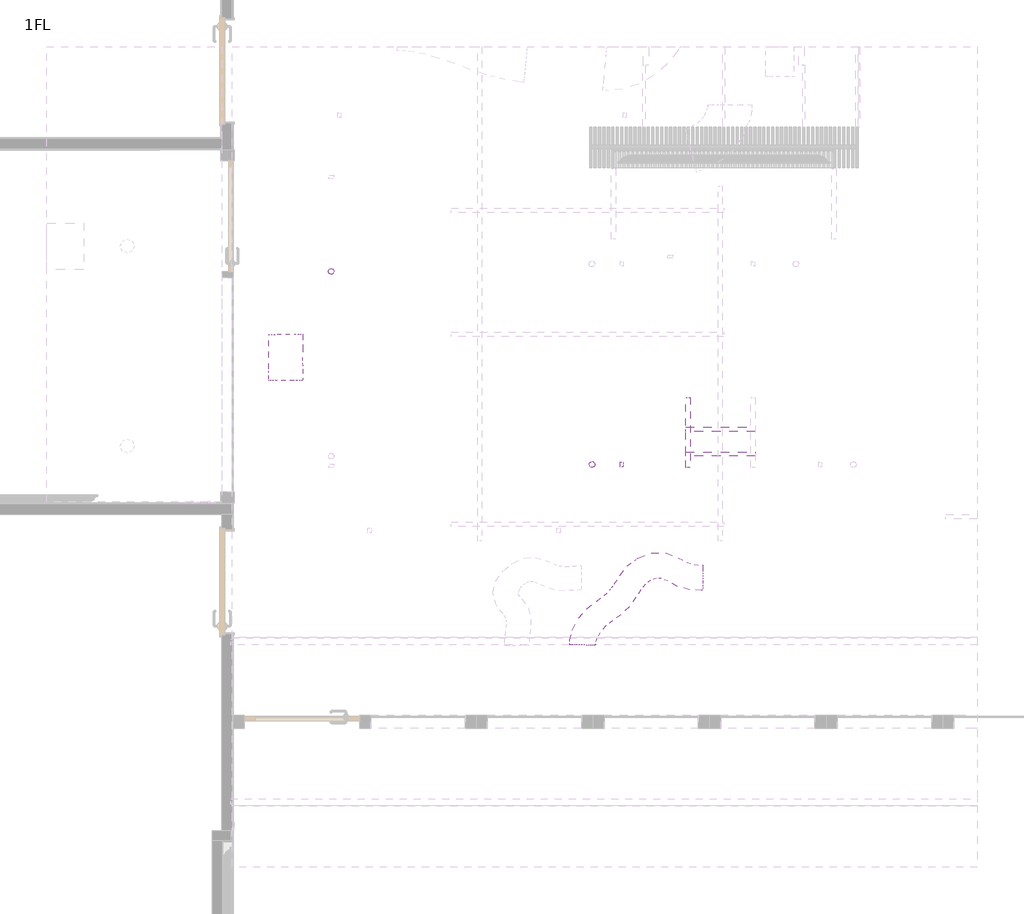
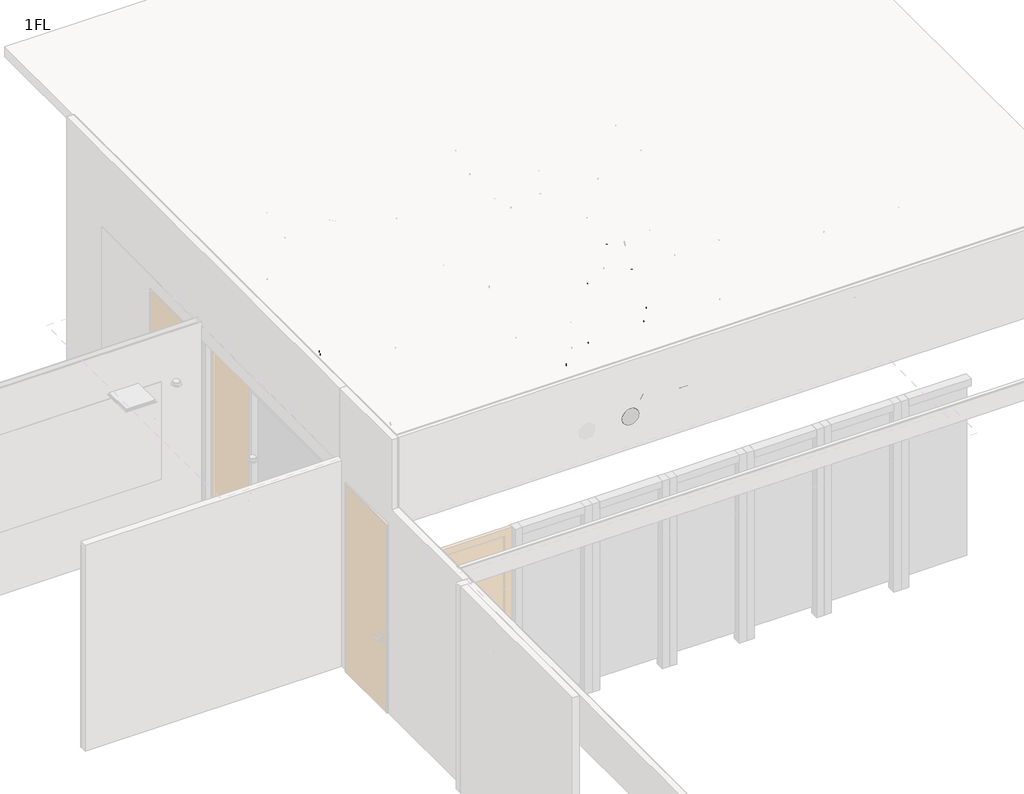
# One storey, part 7 of 13: 4 proxies, 2 duct segments, 2 fire suppression terminals.
"""IFC4 building model written with IfcOpenShell, lengths in millimetres."""

from ifc_helpers import new_model, si_unit, frame, origin, place, context, project, spatial, circle_curve, ellipse_curve, transform, mapped, element, save
from ifc_brep_helpers import plane_surface, cylinder_surface, advanced_brep
from components import mechanical_equipment_1677a866, mechanical_equipment_90a53e65, mechanical_equipment_0a1a1f3f, duct_hanger_2791b4bb, sprinkler_01_sprinkler_01_96afb536

model = new_model("IFC4")

# Units and contexts
model_context = context("Model", 3, world=origin())
ifc_project = project(units=[si_unit("LENGTHUNIT", "METRE", prefix="MILLI")], contexts=[model_context])

# Site, building, storey
site = spatial("IfcSite", under=ifc_project)
building = spatial("IfcBuilding", under=site)
storey = spatial("IfcBuildingStorey", under=building, Name="1FL", Elevation=500.0)

# Proxies
placement = place(None, origin())
mechanical_equipment_shape = mechanical_equipment_1677a866(model_context)
element("IfcBuildingElementProxy", 1, Name="Beared-Hanger : BearedHanger", ObjectType="Beared-Hanger : BearedHanger", at=placement, inside=storey, context=model_context, shape_type="MappedRepresentation", body=[
    mapped(mechanical_equipment_shape, transform((15988.1782237, -2246.4461398, 4470.0), x_axis=(0.9999999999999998, 0.0, 0.0), y_axis=(0.0, 0.9999999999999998, 0.0), z_axis=(0.0, 0.0, 1.0))),
])
mechanical_equipment_2_shape = mechanical_equipment_90a53e65(model_context)
element("IfcBuildingElementProxy", 2, Name="Beared-Hanger : BearedHanger", ObjectType="Beared-Hanger : BearedHanger", at=placement, inside=storey, context=model_context, shape_type="MappedRepresentation", body=[
    mapped(mechanical_equipment_2_shape, transform((15988.1782237, -2468.0496604, 4470.0), x_axis=(0.9999999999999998, 0.0, 0.0), y_axis=(0.0, 0.9999999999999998, 0.0), z_axis=(0.0, 0.0, 1.0))),
])
mechanical_equipment_3_shape = mechanical_equipment_0a1a1f3f(model_context)
element("IfcBuildingElementProxy", 3, Name="Beared-Hanger : BearedHanger", ObjectType="Beared-Hanger : BearedHanger", at=placement, inside=storey, context=model_context, shape_type="MappedRepresentation", body=[
    mapped(mechanical_equipment_3_shape, transform((15694.4982745, -2274.3361933, 4470.0), x_axis=(-0.00024414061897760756, 0.9999999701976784, 0.0), y_axis=(-0.9999999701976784, -0.00024414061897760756, 0.0), z_axis=(0.0, 0.0, 1.0))),
])
duct_hanger_shape = duct_hanger_2791b4bb(model_context)
element("IfcBuildingElementProxy", 4, Name="Duct-hanger : Φ44", ObjectType="Duct-hanger : Φ44", at=placement, inside=storey, context=model_context, shape_type="MappedRepresentation", body=[
    mapped(duct_hanger_shape, transform((15098.6391183, -2563.3401877, 4470.0), x_axis=(1.0, 0.0, 0.0), y_axis=(0.0, 1.0, 0.0), z_axis=(0.0, 0.0, 1.0))),
])

# Duct segments
element("IfcDuctSegment", 5, ObjectType="フレキシブル - 円形", at=placement, inside=storey, context=model_context, shape_type="AdvancedBrep", body=[
    advanced_brep(
    [(11918.84377, -1807.978965, 3725.0), (12071.34377, -1807.978965, 3572.5), (12223.84377, -1807.978965, 3725.0), (12071.34377, -1807.978965, 3877.5), (11918.84377, -1791.8540178, 3725.0), (12071.34377, -1780.8657473, 3572.5), (12223.84377, -1790.1665064, 3725.0), (12071.34377, -1801.1547769, 3877.5), (11918.6358225, -1390.1653029, 3777.5889215), (12071.4205728, -1389.0739832, 3929.7997263), (12223.6274948, -1387.9867909, 3777.0110785), (12070.8427446, -1389.0781106, 3624.8002737), (11917.8743181, -1704.6352362, 3736.6557671), (12070.2046758, -1678.384747, 3586.1953836), (12222.8639158, -1702.0118586, 3736.7808346), (12070.533558, -1728.2623477, 3887.2412181), (11917.2194124, -1598.9769439, 3757.5841683), (12069.5566126, -1573.8303655, 3606.9051263), (12222.2280185, -1599.4202634, 3757.1017959), (12069.8908184, -1624.5668417, 3907.7808379), (11918.2293594, -1493.3682512, 3772.3123049), (12070.456855, -1479.6933302, 3620.0334311), (12223.2220607, -1495.4747176, 3771.5979909), (12070.9945652, -1509.1496385, 3923.8768646), (11918.6846145, -1396.9961798, 3777.5889215), (12070.8681278, -1392.6317664, 3624.8002737), (12223.6890902, -1396.6101396, 3777.0110785), (12071.5055769, -1400.974553, 3929.7997263)],
    [
        (0, 1, circle_curve(frame((12071.34377, -1807.978965, 3725.0), z_axis=(0.0, -1.0, 0.0), x_axis=(-1.0, 0.0, 0.0)), 152.5)),
        (1, 2, circle_curve(frame((12071.34377, -1807.978965, 3725.0), z_axis=(0.0, -1.0, 0.0), x_axis=(-1.0, 0.0, 0.0)), 152.5)),
        (2, 3, circle_curve(frame((12071.34377, -1807.978965, 3725.0), z_axis=(0.0, -1.0, 0.0), x_axis=(-1.0, 0.0, 0.0)), 152.5)),
        (3, 0, circle_curve(frame((12071.34377, -1807.978965, 3725.0), z_axis=(0.0, -1.0, 0.0), x_axis=(-1.0, 0.0, 0.0)), 152.5)),
        (0, 4),
        (4, 5, ellipse_curve(frame((12071.34377, -1791.0102621, 3725.0), z_axis=(0.005520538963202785, -0.9977795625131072, -0.06637370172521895), x_axis=(-0.08270333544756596, -0.06660288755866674, 0.9943461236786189)), 152.8393703, 152.5)),
        (5, 1),
        (5, 6, ellipse_curve(frame((12071.34377, -1791.0102621, 3725.0), z_axis=(0.005520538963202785, -0.9977795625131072, -0.06637370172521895), x_axis=(-0.08270333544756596, -0.06660288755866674, 0.9943461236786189)), 152.8393703, 152.5)),
        (6, 2),
        (6, 7, ellipse_curve(frame((12071.34377, -1791.0102621, 3725.0), z_axis=(0.005520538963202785, -0.9977795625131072, -0.06637370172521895), x_axis=(-0.08270333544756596, -0.06660288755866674, 0.9943461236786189)), 152.8393703, 152.5)),
        (7, 3),
        (7, 4, ellipse_curve(frame((12071.34377, -1791.0102621, 3725.0), z_axis=(0.005520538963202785, -0.9977795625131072, -0.06637370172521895), x_axis=(-0.08270333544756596, -0.06660288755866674, 0.9943461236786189)), 152.8393703, 152.5)),
        (8, 9, circle_curve(frame((12071.1316587, -1389.0760469, 3777.3), z_axis=(-0.0071426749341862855, 0.999974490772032, 0.0), x_axis=(-0.9999726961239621, -0.007142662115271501, 0.0018945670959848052)), 152.5)),
        (9, 10, circle_curve(frame((12071.1316587, -1389.0760469, 3777.3), z_axis=(-0.0071426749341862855, 0.999974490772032, 0.0), x_axis=(-0.9999726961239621, -0.007142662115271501, 0.0018945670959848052)), 152.5)),
        (10, 11, circle_curve(frame((12071.1316587, -1389.0760469, 3777.3), z_axis=(-0.0071426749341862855, 0.999974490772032, 0.0), x_axis=(-0.9999726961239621, -0.007142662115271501, 0.0018945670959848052)), 152.5)),
        (11, 8, circle_curve(frame((12071.1316587, -1389.0760469, 3777.3), z_axis=(-0.0071426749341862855, 0.999974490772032, 0.0), x_axis=(-0.9999726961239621, -0.007142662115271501, 0.0018945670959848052)), 152.5)),
        (4, 12),
        (12, 13, ellipse_curve(frame((12070.3691169, -1703.3235474, 3736.7183009), z_axis=(0.00855255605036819, -0.9865135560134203, -0.16345598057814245), x_axis=(0.07851193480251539, -0.1622948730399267, 0.9836138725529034)), 152.5754159, 152.5)),
        (13, 5),
        (13, 14, ellipse_curve(frame((12070.3691169, -1703.3235474, 3736.7183009), z_axis=(0.00855255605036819, -0.9865135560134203, -0.16345598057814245), x_axis=(0.07851193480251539, -0.1622948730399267, 0.9836138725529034)), 152.5754159, 152.5)),
        (14, 6),
        (14, 15, ellipse_curve(frame((12070.3691169, -1703.3235474, 3736.7183009), z_axis=(0.00855255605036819, -0.9865135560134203, -0.16345598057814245), x_axis=(0.07851193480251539, -0.1622948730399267, 0.9836138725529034)), 152.5754159, 152.5)),
        (15, 7),
        (15, 12, ellipse_curve(frame((12070.3691169, -1703.3235474, 3736.7183009), z_axis=(0.00855255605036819, -0.9865135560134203, -0.16345598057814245), x_axis=(0.07851193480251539, -0.1622948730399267, 0.9836138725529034)), 152.5754159, 152.5)),
        (12, 16),
        (16, 17, ellipse_curve(frame((12069.7237155, -1599.1986036, 3757.3429821), z_axis=(-0.001696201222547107, -0.9860771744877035, -0.1662796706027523), x_axis=(0.2633362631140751, 0.15997044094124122, -0.951348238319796)), 152.5665221, 152.5)),
        (17, 13),
        (17, 18, ellipse_curve(frame((12069.7237155, -1599.1986036, 3757.3429821), z_axis=(-0.001696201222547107, -0.9860771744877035, -0.1662796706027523), x_axis=(0.2633362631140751, 0.15997044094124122, -0.951348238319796)), 152.5665221, 152.5)),
        (18, 14),
        (18, 19, ellipse_curve(frame((12069.7237155, -1599.1986036, 3757.3429821), z_axis=(-0.001696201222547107, -0.9860771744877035, -0.1662796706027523), x_axis=(0.2633362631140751, 0.15997044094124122, -0.951348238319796)), 152.5665221, 152.5)),
        (19, 15),
        (19, 16, ellipse_curve(frame((12069.7237155, -1599.1986036, 3757.3429821), z_axis=(-0.001696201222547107, -0.9860771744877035, -0.1662796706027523), x_axis=(0.2633362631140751, 0.15997044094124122, -0.951348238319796)), 152.5665221, 152.5)),
        (16, 20),
        (20, 21, ellipse_curve(frame((12070.7257101, -1494.4214844, 3771.9551479), z_axis=(-0.007100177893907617, -0.9953097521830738, -0.09647841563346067), x_axis=(-0.0566140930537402, 0.09672620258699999, -0.9936995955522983)), 152.634605, 152.5)),
        (21, 17),
        (21, 22, ellipse_curve(frame((12070.7257101, -1494.4214844, 3771.9551479), z_axis=(-0.007100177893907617, -0.9953097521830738, -0.09647841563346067), x_axis=(-0.0566140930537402, 0.09672620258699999, -0.9936995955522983)), 152.634605, 152.5)),
        (22, 18),
        (22, 23, ellipse_curve(frame((12070.7257101, -1494.4214844, 3771.9551479), z_axis=(-0.007100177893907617, -0.9953097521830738, -0.09647841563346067), x_axis=(-0.0566140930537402, 0.09672620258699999, -0.9936995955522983)), 152.634605, 152.5)),
        (23, 19),
        (23, 20, ellipse_curve(frame((12070.7257101, -1494.4214844, 3771.9551479), z_axis=(-0.007100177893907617, -0.9953097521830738, -0.09647841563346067), x_axis=(-0.0566140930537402, 0.09672620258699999, -0.9936995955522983)), 152.634605, 152.5)),
        (20, 24),
        (24, 25, ellipse_curve(frame((12071.1868523, -1396.8031597, 3777.3), z_axis=(0.0012134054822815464, -0.9996252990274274, -0.02734573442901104), x_axis=(-0.2119234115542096, 0.02646757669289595, -0.9769278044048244)), 152.5597323, 152.5)),
        (25, 21),
        (25, 26, ellipse_curve(frame((12071.1868523, -1396.8031597, 3777.3), z_axis=(0.0012134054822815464, -0.9996252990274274, -0.02734573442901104), x_axis=(-0.2119234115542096, 0.02646757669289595, -0.9769278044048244)), 152.5597323, 152.5)),
        (26, 22),
        (26, 27, ellipse_curve(frame((12071.1868523, -1396.8031597, 3777.3), z_axis=(0.0012134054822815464, -0.9996252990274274, -0.02734573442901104), x_axis=(-0.2119234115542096, 0.02646757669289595, -0.9769278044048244)), 152.5597323, 152.5)),
        (27, 23),
        (27, 24, ellipse_curve(frame((12071.1868523, -1396.8031597, 3777.3), z_axis=(0.0012134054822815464, -0.9996252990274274, -0.02734573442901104), x_axis=(-0.2119234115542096, 0.02646757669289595, -0.9769278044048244)), 152.5597323, 152.5)),
        (24, 8),
        (11, 25),
        (10, 26),
        (9, 27),
    ],
    [
        plane_surface(frame((11918.84377, -1807.978965, 3725.0), z_axis=(0.0, -1.0, 0.0), x_axis=(0.0, 0.0, 1.0))),
        cylinder_surface(frame((12071.34377, -1807.978965, 3725.0), z_axis=(0.0, -1.0, 0.0), x_axis=(-1.0, 0.0, 0.0)), 152.5),
        plane_surface(frame((12071.1316587, -1389.0760469, 3929.8), z_axis=(-0.007142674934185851, 0.999974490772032, 0.0), x_axis=(0.999974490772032, 0.007142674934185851, 0.0))),
        cylinder_surface(frame((12071.34377, -1791.0102621, 3725.0), z_axis=(0.011016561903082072, -0.9911281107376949, -0.13245264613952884), x_axis=(-0.9999390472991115, -0.011016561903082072, -0.0007328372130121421)), 152.5),
        cylinder_surface(frame((12070.3691169, -1703.3235474, 3736.7183009), z_axis=(0.006080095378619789, -0.9809237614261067, -0.19429772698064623), x_axis=(-0.9999807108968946, -0.006210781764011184, 6.34351750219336e-05)), 152.5),
        cylinder_surface(frame((12069.7237155, -1599.1986036, 3757.3429821), z_axis=(-0.009471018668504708, -0.9903706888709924, -0.13811661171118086), x_axis=(-0.9999542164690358, 0.009191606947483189, 0.002660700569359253)), 152.5),
        cylinder_surface(frame((12070.7257101, -1494.4214844, 3771.9551479), z_axis=(-0.004716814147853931, -0.9984933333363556, -0.054670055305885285), x_axis=(-0.9999869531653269, 0.004602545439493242, 0.0022158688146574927)), 152.5),
        cylinder_surface(frame((12071.1868523, -1396.8031597, 3777.3), z_axis=(0.0071426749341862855, -0.999974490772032, 0.0), x_axis=(-0.9999726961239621, -0.007142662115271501, 0.0018945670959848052)), 152.5),
    ],
    [
        (0, [[1, 2, 3, 4]]),
        (1, [[-1, 5, 6, 7]]),
        (1, [[-2, -7, 8, 9]]),
        (1, [[-3, -9, 10, 11]]),
        (1, [[-4, -11, 12, -5]]),
        (2, [[13, 14, 15, 16]]),
        (3, [[-6, 17, 18, 19]]),
        (3, [[-8, -19, 20, 21]]),
        (3, [[-10, -21, 22, 23]]),
        (3, [[-12, -23, 24, -17]]),
        (4, [[-18, 25, 26, 27]]),
        (4, [[-20, -27, 28, 29]]),
        (4, [[-22, -29, 30, 31]]),
        (4, [[-24, -31, 32, -25]]),
        (5, [[-26, 33, 34, 35]]),
        (5, [[-28, -35, 36, 37]]),
        (5, [[-30, -37, 38, 39]]),
        (5, [[-32, -39, 40, -33]]),
        (6, [[-34, 41, 42, 43]]),
        (6, [[-36, -43, 44, 45]]),
        (6, [[-38, -45, 46, 47]]),
        (6, [[-40, -47, 48, -41]]),
        (7, [[-42, 49, -16, 50]]),
        (7, [[-44, -50, -15, 51]]),
        (7, [[-46, -51, -14, 52]]),
        (7, [[-48, -52, -13, -49]]),
    ],
),
])
element("IfcDuctSegment", 6, ObjectType="フレキシブル - 円形", at=placement, inside=storey, context=model_context, shape_type="AdvancedBrep", body=[
    advanced_brep(
    [(14628.0373753, -4190.17777, 3666.8276451), (14743.0357095, -4190.7967506, 3551.8276451), (14858.0340437, -4191.4157313, 3666.8276451), (14743.0357095, -4190.7967506, 3781.8276451), (14628.21815, -4156.5922497, 3666.8276451), (14743.1469052, -4170.1380764, 3551.8276451), (14858.0706238, -4184.6196343, 3666.8276451), (14743.1418686, -4171.0738077, 3781.8276451), (15827.1733714, -3476.6600531, 3452.3881129), (15828.6692219, -3539.0413532, 3602.5757816), (15825.4981753, -3689.2180082, 3540.2306394), (15824.0023248, -3626.8367081, 3390.0429707), (14652.2981412, -4057.0275756, 3667.6500076), (14761.6098919, -4093.7982952, 3552.4581797), (14869.0012728, -4139.4241648, 3667.2009408), (14759.6895221, -4102.6534451, 3782.3927686), (14710.9099316, -3947.1014552, 3676.2898506), (14812.6750839, -3998.0257825, 3559.9855942), (14901.3885818, -4078.6819283, 3671.9750871), (14799.6234295, -4027.757601, 3788.2793435), (14789.4533044, -3858.7416554, 3701.0190303), (14887.2378688, -3914.1440685, 3583.461496), (14950.6275538, -4023.289022, 3687.4778513), (14852.8429894, -3967.8866089, 3805.0353856), (14870.6004285, -3794.4672989, 3737.282815), (14964.761772, -3852.7395633, 3618.1061019), (15015.1169588, -3972.2087766, 3716.2974789), (14920.9556153, -3913.9365121, 3835.4741919), (14939.9358676, -3743.3840831, 3764.1452324), (15024.366426, -3808.8255499, 3641.198551), (15090.4564561, -3916.7020421, 3745.4860303), (15006.0258977, -3851.2605753, 3868.4327117), (14991.8361516, -3693.7782345, 3768.2503247), (15061.4727858, -3773.3596078, 3644.1335066), (15163.7067342, -3846.6900514, 3751.2798165), (15094.0700999, -3767.1086781, 3875.3966345), (15036.6852707, -3631.7430953, 3746.1106477), (15094.4231637, -3727.7827644, 3627.8676192), (15220.1090181, -3768.6746165, 3723.4369431), (15162.371125, -3672.6349475, 3841.6799716), (15085.947131, -3556.0597828, 3700.6405917), (15135.1625936, -3665.1928625, 3590.2640016), (15265.6913706, -3698.6443049, 3681.3631742), (15216.475908, -3589.5112252, 3791.7397644), (15149.3259433, -3476.8540157, 3642.0169775), (15189.6693019, -3597.0747408, 3539.8468334), (15310.1080676, -3643.1358717, 3640.278982), (15269.764709, -3522.9151466, 3742.4491261), (15240.0915362, -3407.3338063, 3585.6655191), (15266.1312645, -3538.5101298, 3492.3757272), (15359.103366, -3605.6088387, 3609.8604453), (15333.0636377, -3474.4325152, 3703.1502372), (15358.5686869, -3364.5221081, 3541.7197524), (15355.7871833, -3506.1129788, 3459.1203858), (15413.4490747, -3585.9710262, 3589.7024332), (15416.2305783, -3444.3801555, 3672.3017998), (15486.6001875, -3364.1432671, 3503.261744), (15438.1644518, -3505.8692271, 3434.3759622), (15466.100596, -3585.815232, 3573.8870078), (15514.5363317, -3444.0892719, 3642.7727896), (15595.4869484, -3407.7074446, 3468.4253534), (15518.1295322, -3537.8622163, 3408.7925511), (15525.1116321, -3609.4247804, 3555.007472), (15602.4690483, -3479.2700087, 3614.6402744), (15678.235071, -3452.1633661, 3449.2318117), (15614.9579047, -3589.8826657, 3386.3330758), (15606.9311298, -3653.3818039, 3536.029326), (15670.2082962, -3515.6625043, 3598.9280619), (15750.3139329, -3472.8515707, 3448.054687), (15726.8340198, -3621.9935495, 3384.5060196), (15713.0588302, -3683.8427674, 3534.2961476), (15736.5387432, -3534.7007885, 3597.844815), (15822.7757387, -3476.5963611, 3452.4583676), (15819.2047583, -3626.7672237, 3390.1196146), (15813.7881485, -3689.0484088, 3540.4177138), (15817.359129, -3538.8775462, 3602.7564669)],
    [
        (0, 1, circle_curve(frame((14743.0357095, -4190.7967506, 3666.8276451), z_axis=(-0.005382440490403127, -0.9999855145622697, 0.0), x_axis=(-0.9999855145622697, 0.005382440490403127, 0.0)), 115.0)),
        (1, 2, circle_curve(frame((14743.0357095, -4190.7967506, 3666.8276451), z_axis=(-0.005382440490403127, -0.9999855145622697, 0.0), x_axis=(-0.9999855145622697, 0.005382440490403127, 0.0)), 115.0)),
        (2, 3, circle_curve(frame((14743.0357095, -4190.7967506, 3666.8276451), z_axis=(-0.005382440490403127, -0.9999855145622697, 0.0), x_axis=(-0.9999855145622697, 0.005382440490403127, 0.0)), 115.0)),
        (3, 0, circle_curve(frame((14743.0357095, -4190.7967506, 3666.8276451), z_axis=(-0.005382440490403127, -0.9999855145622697, 0.0), x_axis=(-0.9999855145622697, 0.005382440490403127, 0.0)), 115.0)),
        (0, 4),
        (4, 5, ellipse_curve(frame((14743.1443869, -4170.605942, 3666.8276451), z_axis=(-0.12103889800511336, -0.9926395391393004, -0.004041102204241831), x_axis=(0.9920338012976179, -0.12110619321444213, 0.03467314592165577)), 115.7784194, 115.0)),
        (5, 1),
        (5, 6, ellipse_curve(frame((14743.1443869, -4170.605942, 3666.8276451), z_axis=(-0.12103889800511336, -0.9926395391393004, -0.004041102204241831), x_axis=(0.9920338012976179, -0.12110619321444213, 0.03467314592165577)), 115.7784194, 115.0)),
        (6, 2),
        (6, 7, ellipse_curve(frame((14743.1443869, -4170.605942, 3666.8276451), z_axis=(-0.12103889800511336, -0.9926395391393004, -0.004041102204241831), x_axis=(0.9920338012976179, -0.12110619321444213, 0.03467314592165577)), 115.7784194, 115.0)),
        (7, 3),
        (7, 4, ellipse_curve(frame((14743.1443869, -4170.605942, 3666.8276451), z_axis=(-0.12103889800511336, -0.9926395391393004, -0.004041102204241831), x_axis=(0.9920338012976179, -0.12110619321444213, 0.03467314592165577)), 115.7784194, 115.0)),
        (8, 9, circle_curve(frame((15826.3357733, -3582.9390306, 3496.3093761), z_axis=(0.9997675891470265, -0.014479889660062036, -0.01597186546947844), x_axis=(0.0072834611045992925, 0.9241650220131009, -0.3819240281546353)), 115.0)),
        (9, 10, circle_curve(frame((15826.3357733, -3582.9390306, 3496.3093761), z_axis=(0.9997675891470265, -0.014479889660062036, -0.01597186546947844), x_axis=(0.0072834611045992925, 0.9241650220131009, -0.3819240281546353)), 115.0)),
        (10, 11, circle_curve(frame((15826.3357733, -3582.9390306, 3496.3093761), z_axis=(0.9997675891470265, -0.014479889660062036, -0.01597186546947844), x_axis=(0.0072834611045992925, 0.9241650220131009, -0.3819240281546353)), 115.0)),
        (11, 8, circle_curve(frame((15826.3357733, -3582.9390306, 3496.3093761), z_axis=(0.9997675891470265, -0.014479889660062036, -0.01597186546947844), x_axis=(0.0072834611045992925, 0.9241650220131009, -0.3819240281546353)), 115.0)),
        (4, 12),
        (12, 13, ellipse_curve(frame((14760.649707, -4098.2258702, 3667.4254742), z_axis=(-0.35520494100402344, -0.9339772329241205, -0.03893556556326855), x_axis=(0.904921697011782, -0.3540021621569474, 0.23621852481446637)), 115.975928, 115.0)),
        (13, 5),
        (13, 14, ellipse_curve(frame((14760.649707, -4098.2258702, 3667.4254742), z_axis=(-0.35520494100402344, -0.9339772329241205, -0.03893556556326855), x_axis=(0.904921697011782, -0.3540021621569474, 0.23621852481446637)), 115.975928, 115.0)),
        (14, 6),
        (14, 15, ellipse_curve(frame((14760.649707, -4098.2258702, 3667.4254742), z_axis=(-0.35520494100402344, -0.9339772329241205, -0.03893556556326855), x_axis=(0.904921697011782, -0.3540021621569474, 0.23621852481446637)), 115.975928, 115.0)),
        (15, 7),
        (15, 12, ellipse_curve(frame((14760.649707, -4098.2258702, 3667.4254742), z_axis=(-0.35520494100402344, -0.9339772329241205, -0.03893556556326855), x_axis=(0.904921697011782, -0.3540021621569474, 0.23621852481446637)), 115.975928, 115.0)),
        (12, 16),
        (16, 17, ellipse_curve(frame((14806.1492567, -4012.8916917, 3674.1324689), z_axis=(-0.5650258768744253, -0.8134102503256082, -0.13823719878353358), x_axis=(0.668609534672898, -0.5495735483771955, 0.5009293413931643)), 116.0673479, 115.0)),
        (17, 13),
        (17, 18, ellipse_curve(frame((14806.1492567, -4012.8916917, 3674.1324689), z_axis=(-0.5650258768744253, -0.8134102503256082, -0.13823719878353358), x_axis=(0.668609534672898, -0.5495735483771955, 0.5009293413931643)), 116.0673479, 115.0)),
        (18, 14),
        (18, 19, ellipse_curve(frame((14806.1492567, -4012.8916917, 3674.1324689), z_axis=(-0.5650258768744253, -0.8134102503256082, -0.13823719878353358), x_axis=(0.668609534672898, -0.5495735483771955, 0.5009293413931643)), 116.0673479, 115.0)),
        (19, 15),
        (19, 16, ellipse_curve(frame((14806.1492567, -4012.8916917, 3674.1324689), z_axis=(-0.5650258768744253, -0.8134102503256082, -0.13823719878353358), x_axis=(0.668609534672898, -0.5495735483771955, 0.5009293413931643)), 116.0673479, 115.0)),
        (16, 20),
        (20, 21, ellipse_curve(frame((14870.0404291, -3941.0153387, 3694.2484408), z_axis=(-0.699000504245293, -0.6625181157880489, -0.2691988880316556), x_axis=(0.42173261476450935, -0.685913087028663, 0.5930133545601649)), 115.6531397, 115.0)),
        (21, 17),
        (21, 22, ellipse_curve(frame((14870.0404291, -3941.0153387, 3694.2484408), z_axis=(-0.699000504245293, -0.6625181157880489, -0.2691988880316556), x_axis=(0.42173261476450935, -0.685913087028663, 0.5930133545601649)), 115.6531397, 115.0)),
        (22, 18),
        (22, 23, ellipse_curve(frame((14870.0404291, -3941.0153387, 3694.2484408), z_axis=(-0.699000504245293, -0.6625181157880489, -0.2691988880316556), x_axis=(0.42173261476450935, -0.685913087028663, 0.5930133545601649)), 115.6531397, 115.0)),
        (23, 19),
        (23, 20, ellipse_curve(frame((14870.0404291, -3941.0153387, 3694.2484408), z_axis=(-0.699000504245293, -0.6625181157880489, -0.2691988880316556), x_axis=(0.42173261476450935, -0.685913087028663, 0.5930133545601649)), 115.6531397, 115.0)),
        (20, 24),
        (24, 25, ellipse_curve(frame((14942.8586937, -3883.3380377, 3726.7901469), z_axis=(-0.7544065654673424, -0.576280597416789, -0.31427918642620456), x_axis=(0.6002544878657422, -0.4118985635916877, -0.6855903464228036)), 115.033014, 115.0)),
        (25, 21),
        (25, 26, ellipse_curve(frame((14942.8586937, -3883.3380377, 3726.7901469), z_axis=(-0.7544065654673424, -0.576280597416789, -0.31427918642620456), x_axis=(0.6002544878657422, -0.4118985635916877, -0.6855903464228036)), 115.033014, 115.0)),
        (26, 22),
        (26, 27, ellipse_curve(frame((14942.8586937, -3883.3380377, 3726.7901469), z_axis=(-0.7544065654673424, -0.576280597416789, -0.31427918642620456), x_axis=(0.6002544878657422, -0.4118985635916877, -0.6855903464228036)), 115.033014, 115.0)),
        (27, 23),
        (27, 24, ellipse_curve(frame((14942.8586937, -3883.3380377, 3726.7901469), z_axis=(-0.7544065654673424, -0.576280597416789, -0.31427918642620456), x_axis=(0.6002544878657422, -0.4118985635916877, -0.6855903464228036)), 115.033014, 115.0)),
        (24, 28),
        (28, 29, ellipse_curve(frame((15015.1961619, -3830.0430626, 3754.8156313), z_axis=(-0.7522713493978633, -0.6340374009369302, -0.1791211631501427), x_axis=(-0.17060356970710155, 0.45005175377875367, -0.8765545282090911)), 116.0993093, 115.0)),
        (29, 25),
        (29, 30, ellipse_curve(frame((15015.1961619, -3830.0430626, 3754.8156313), z_axis=(-0.7522713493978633, -0.6340374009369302, -0.1791211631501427), x_axis=(-0.17060356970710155, 0.45005175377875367, -0.8765545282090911)), 116.0993093, 115.0)),
        (30, 26),
        (30, 31, ellipse_curve(frame((15015.1961619, -3830.0430626, 3754.8156313), z_axis=(-0.7522713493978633, -0.6340374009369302, -0.1791211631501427), x_axis=(-0.17060356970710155, 0.45005175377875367, -0.8765545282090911)), 116.0993093, 115.0)),
        (31, 27),
        (31, 28, ellipse_curve(frame((15015.1961619, -3830.0430626, 3754.8156313), z_axis=(-0.7522713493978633, -0.6340374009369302, -0.1791211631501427), x_axis=(-0.17060356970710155, 0.45005175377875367, -0.8765545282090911)), 116.0993093, 115.0)),
        (28, 32),
        (32, 33, ellipse_curve(frame((15077.7714429, -3770.2341429, 3759.7650706), z_axis=(-0.6542642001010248, -0.7478614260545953, 0.11243506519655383), x_axis=(-0.41690433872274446, 0.23262502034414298, -0.8786787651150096)), 117.1471429, 115.0)),
        (33, 29),
        (33, 34, ellipse_curve(frame((15077.7714429, -3770.2341429, 3759.7650706), z_axis=(-0.6542642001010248, -0.7478614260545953, 0.11243506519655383), x_axis=(-0.41690433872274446, 0.23262502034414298, -0.8786787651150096)), 117.1471429, 115.0)),
        (34, 30),
        (34, 35, ellipse_curve(frame((15077.7714429, -3770.2341429, 3759.7650706), z_axis=(-0.6542642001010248, -0.7478614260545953, 0.11243506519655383), x_axis=(-0.41690433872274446, 0.23262502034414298, -0.8786787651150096)), 117.1471429, 115.0)),
        (35, 31),
        (35, 32, ellipse_curve(frame((15077.7714429, -3770.2341429, 3759.7650706), z_axis=(-0.6542642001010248, -0.7478614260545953, 0.11243506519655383), x_axis=(-0.41690433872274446, 0.23262502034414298, -0.8786787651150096)), 117.1471429, 115.0)),
        (32, 36),
        (36, 37, ellipse_curve(frame((15128.3971444, -3700.2088559, 3734.7737954), z_axis=(-0.5274155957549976, -0.7669992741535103, 0.3654379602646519), x_axis=(-0.3974944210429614, -0.15738431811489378, -0.9040068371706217)), 115.5233079, 115.0)),
        (37, 33),
        (37, 38, ellipse_curve(frame((15128.3971444, -3700.2088559, 3734.7737954), z_axis=(-0.5274155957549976, -0.7669992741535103, 0.3654379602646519), x_axis=(-0.3974944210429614, -0.15738431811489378, -0.9040068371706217)), 115.5233079, 115.0)),
        (38, 34),
        (38, 39, ellipse_curve(frame((15128.3971444, -3700.2088559, 3734.7737954), z_axis=(-0.5274155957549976, -0.7669992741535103, 0.3654379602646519), x_axis=(-0.3974944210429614, -0.15738431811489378, -0.9040068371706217)), 115.5233079, 115.0)),
        (39, 35),
        (39, 36, ellipse_curve(frame((15128.3971444, -3700.2088559, 3734.7737954), z_axis=(-0.5274155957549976, -0.7669992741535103, 0.3654379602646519), x_axis=(-0.3974944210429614, -0.15738431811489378, -0.9040068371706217)), 115.5233079, 115.0)),
        (36, 40),
        (40, 41, ellipse_curve(frame((15175.8192508, -3627.3520439, 3691.001883), z_axis=(-0.5147798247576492, -0.7132516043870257, 0.475682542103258), x_axis=(0.5190312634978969, -0.7008905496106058, -0.4892432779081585)), 115.1542495, 115.0)),
        (41, 37),
        (41, 42, ellipse_curve(frame((15175.8192508, -3627.3520439, 3691.001883), z_axis=(-0.5147798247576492, -0.7132516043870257, 0.475682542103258), x_axis=(0.5190312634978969, -0.7008905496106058, -0.4892432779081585)), 115.1542495, 115.0)),
        (42, 38),
        (42, 43, ellipse_curve(frame((15175.8192508, -3627.3520439, 3691.001883), z_axis=(-0.5147798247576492, -0.7132516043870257, 0.475682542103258), x_axis=(0.5190312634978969, -0.7008905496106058, -0.4892432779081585)), 115.1542495, 115.0)),
        (43, 39),
        (43, 40, ellipse_curve(frame((15175.8192508, -3627.3520439, 3691.001883), z_axis=(-0.5147798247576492, -0.7132516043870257, 0.475682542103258), x_axis=(0.5190312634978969, -0.7008905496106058, -0.4892432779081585)), 115.1542495, 115.0)),
        (40, 44),
        (44, 45, ellipse_curve(frame((15229.7170055, -3559.9949437, 3641.1479797), z_axis=(-0.6304509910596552, -0.6145552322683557, 0.47418710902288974), x_axis=(0.767335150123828, -0.585631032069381, 0.2612145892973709)), 115.7218394, 115.0)),
        (45, 41),
        (45, 46, ellipse_curve(frame((15229.7170055, -3559.9949437, 3641.1479797), z_axis=(-0.6304509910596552, -0.6145552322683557, 0.47418710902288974), x_axis=(0.767335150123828, -0.585631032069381, 0.2612145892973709)), 115.7218394, 115.0)),
        (46, 42),
        (46, 47, ellipse_curve(frame((15229.7170055, -3559.9949437, 3641.1479797), z_axis=(-0.6304509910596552, -0.6145552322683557, 0.47418710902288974), x_axis=(0.767335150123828, -0.585631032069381, 0.2612145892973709)), 115.7218394, 115.0)),
        (47, 43),
        (47, 44, ellipse_curve(frame((15229.7170055, -3559.9949437, 3641.1479797), z_axis=(-0.6304509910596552, -0.6145552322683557, 0.47418710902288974), x_axis=(0.767335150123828, -0.585631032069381, 0.2612145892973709)), 115.7218394, 115.0)),
        (44, 48),
        (48, 49, ellipse_curve(frame((15299.5974511, -3506.4713225, 3597.7629822), z_axis=(-0.8096223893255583, -0.4383305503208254, 0.390356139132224), x_axis=(0.5735559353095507, -0.7320930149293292, 0.36752334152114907)), 116.3765182, 115.0)),
        (49, 45),
        (49, 50, ellipse_curve(frame((15299.5974511, -3506.4713225, 3597.7629822), z_axis=(-0.8096223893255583, -0.4383305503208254, 0.390356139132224), x_axis=(0.5735559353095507, -0.7320930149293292, 0.36752334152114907)), 116.3765182, 115.0)),
        (50, 46),
        (50, 51, ellipse_curve(frame((15299.5974511, -3506.4713225, 3597.7629822), z_axis=(-0.8096223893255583, -0.4383305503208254, 0.390356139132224), x_axis=(0.5735559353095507, -0.7320930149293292, 0.36752334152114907)), 116.3765182, 115.0)),
        (51, 47),
        (51, 48, ellipse_curve(frame((15299.5974511, -3506.4713225, 3597.7629822), z_axis=(-0.8096223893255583, -0.4383305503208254, 0.390356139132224), x_axis=(0.5735559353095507, -0.7320930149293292, 0.36752334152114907)), 116.3765182, 115.0)),
        (48, 52),
        (52, 53, ellipse_curve(frame((15386.0088808, -3475.2465671, 3565.7110928), z_axis=(-0.9355487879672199, -0.16408158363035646, 0.31277100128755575), x_axis=(0.21239839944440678, -0.9688910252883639, 0.12703188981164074)), 116.5809576, 115.0)),
        (53, 49),
        (53, 54, ellipse_curve(frame((15386.0088808, -3475.2465671, 3565.7110928), z_axis=(-0.9355487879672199, -0.16408158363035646, 0.31277100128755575), x_axis=(0.21239839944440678, -0.9688910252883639, 0.12703188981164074)), 116.5809576, 115.0)),
        (54, 50),
        (54, 55, ellipse_curve(frame((15386.0088808, -3475.2465671, 3565.7110928), z_axis=(-0.9355487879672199, -0.16408158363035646, 0.31277100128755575), x_axis=(0.21239839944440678, -0.9688910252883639, 0.12703188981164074)), 116.5809576, 115.0)),
        (55, 51),
        (55, 52, ellipse_curve(frame((15386.0088808, -3475.2465671, 3565.7110928), z_axis=(-0.9355487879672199, -0.16408158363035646, 0.31277100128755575), x_axis=(0.21239839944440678, -0.9688910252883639, 0.12703188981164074)), 116.5809576, 115.0)),
        (52, 56),
        (56, 57, ellipse_curve(frame((15476.3503918, -3474.9792495, 3538.5743759), z_axis=(-0.9396719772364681, 0.1796459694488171, 0.29110805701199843), x_axis=(-0.1853699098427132, -0.9826359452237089, 0.008037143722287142)), 116.967181, 115.0)),
        (57, 53),
        (57, 58, ellipse_curve(frame((15476.3503918, -3474.9792495, 3538.5743759), z_axis=(-0.9396719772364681, 0.1796459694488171, 0.29110805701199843), x_axis=(-0.1853699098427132, -0.9826359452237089, 0.008037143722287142)), 116.967181, 115.0)),
        (58, 54),
        (58, 59, ellipse_curve(frame((15476.3503918, -3474.9792495, 3538.5743759), z_axis=(-0.9396719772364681, 0.1796459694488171, 0.29110805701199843), x_axis=(-0.1853699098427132, -0.9826359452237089, 0.008037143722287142)), 116.967181, 115.0)),
        (59, 55),
        (59, 56, ellipse_curve(frame((15476.3503918, -3474.9792495, 3538.5743759), z_axis=(-0.9396719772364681, 0.1796459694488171, 0.29110805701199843), x_axis=(-0.1853699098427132, -0.9826359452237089, 0.008037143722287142)), 116.967181, 115.0)),
        (56, 60),
        (60, 61, ellipse_curve(frame((15560.2992902, -3508.5661125, 3511.7164127), z_axis=(-0.8786890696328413, 0.4108855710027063, 0.24306082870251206), x_axis=(-0.1930764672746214, -0.7715077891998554, 0.6062154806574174)), 115.2806553, 115.0)),
        (61, 57),
        (61, 62, ellipse_curve(frame((15560.2992902, -3508.5661125, 3511.7164127), z_axis=(-0.8786890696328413, 0.4108855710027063, 0.24306082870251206), x_axis=(-0.1930764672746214, -0.7715077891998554, 0.6062154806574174)), 115.2806553, 115.0)),
        (62, 58),
        (62, 63, ellipse_curve(frame((15560.2992902, -3508.5661125, 3511.7164127), z_axis=(-0.8786890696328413, 0.4108855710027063, 0.24306082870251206), x_axis=(-0.1930764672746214, -0.7715077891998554, 0.6062154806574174)), 115.2806553, 115.0)),
        (63, 59),
        (63, 60, ellipse_curve(frame((15560.2992902, -3508.5661125, 3511.7164127), z_axis=(-0.8786890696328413, 0.4108855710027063, 0.24306082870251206), x_axis=(-0.1930764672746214, -0.7715077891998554, 0.6062154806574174)), 115.2806553, 115.0)),
        (60, 64),
        (64, 65, ellipse_curve(frame((15642.5831004, -3552.772585, 3492.6305688), z_axis=(-0.9212127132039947, 0.3734709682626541, 0.10902556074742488), x_axis=(0.3487902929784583, 0.6686187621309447, 0.6567299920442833)), 116.1516105, 115.0)),
        (65, 61),
        (65, 66, ellipse_curve(frame((15642.5831004, -3552.772585, 3492.6305688), z_axis=(-0.9212127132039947, 0.3734709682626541, 0.10902556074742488), x_axis=(0.3487902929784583, 0.6686187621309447, 0.6567299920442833)), 116.1516105, 115.0)),
        (66, 62),
        (66, 67, ellipse_curve(frame((15642.5831004, -3552.772585, 3492.6305688), z_axis=(-0.9212127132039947, 0.3734709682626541, 0.10902556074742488), x_axis=(0.3487902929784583, 0.6686187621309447, 0.6567299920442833)), 116.1516105, 115.0)),
        (67, 63),
        (67, 64, ellipse_curve(frame((15642.5831004, -3552.772585, 3492.6305688), z_axis=(-0.9212127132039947, 0.3734709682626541, 0.10902556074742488), x_axis=(0.3487902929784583, 0.6686187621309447, 0.6567299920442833)), 116.1516105, 115.0)),
        (64, 68),
        (68, 69, ellipse_curve(frame((15731.6863815, -3578.347169, 3491.1754173), z_axis=(-0.9860562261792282, 0.16487002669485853, -0.022605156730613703), x_axis=(0.1492316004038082, 0.9361683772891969, 0.318305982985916)), 115.8344365, 115.0)),
        (69, 65),
        (69, 70, ellipse_curve(frame((15731.6863815, -3578.347169, 3491.1754173), z_axis=(-0.9860562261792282, 0.16487002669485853, -0.022605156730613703), x_axis=(0.1492316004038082, 0.9361683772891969, 0.318305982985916)), 115.8344365, 115.0)),
        (70, 66),
        (70, 71, ellipse_curve(frame((15731.6863815, -3578.347169, 3491.1754173), z_axis=(-0.9860562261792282, 0.16487002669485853, -0.022605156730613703), x_axis=(0.1492316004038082, 0.9361683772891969, 0.318305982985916)), 115.8344365, 115.0)),
        (71, 67),
        (71, 68, ellipse_curve(frame((15731.6863815, -3578.347169, 3491.1754173), z_axis=(-0.9860562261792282, 0.16487002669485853, -0.022605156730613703), x_axis=(0.1492316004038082, 0.9361683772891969, 0.318305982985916)), 115.8344365, 115.0)),
        (68, 72),
        (72, 73, ellipse_curve(frame((15818.2819436, -3582.822385, 3496.4380407), z_axis=(-0.9992050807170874, 0.03302777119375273, -0.02232426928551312), x_axis=(0.03448679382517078, 0.435251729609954, -0.8996480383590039)), 115.1042231, 115.0)),
        (73, 69),
        (73, 74, ellipse_curve(frame((15818.2819436, -3582.822385, 3496.4380407), z_axis=(-0.9992050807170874, 0.03302777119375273, -0.02232426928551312), x_axis=(0.03448679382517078, 0.435251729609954, -0.8996480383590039)), 115.1042231, 115.0)),
        (74, 70),
        (74, 75, ellipse_curve(frame((15818.2819436, -3582.822385, 3496.4380407), z_axis=(-0.9992050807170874, 0.03302777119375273, -0.02232426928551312), x_axis=(0.03448679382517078, 0.435251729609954, -0.8996480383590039)), 115.1042231, 115.0)),
        (75, 71),
        (75, 72, ellipse_curve(frame((15818.2819436, -3582.822385, 3496.4380407), z_axis=(-0.9992050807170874, 0.03302777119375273, -0.02232426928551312), x_axis=(0.03448679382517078, 0.435251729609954, -0.8996480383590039)), 115.1042231, 115.0)),
        (72, 8),
        (11, 73),
        (10, 74),
        (9, 75),
    ],
    [
        plane_surface(frame((14743.0357095, -4190.7967506, 3781.8276451), z_axis=(-0.005382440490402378, -0.9999855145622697, 0.0), x_axis=(0.9999855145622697, -0.005382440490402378, 0.0))),
        cylinder_surface(frame((14743.0357095, -4190.7967506, 3666.8276451), z_axis=(-0.005382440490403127, -0.9999855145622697, 0.0), x_axis=(-0.9999855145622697, 0.005382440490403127, 0.0)), 115.0),
        plane_surface(frame((15826.3357733, -3497.7398302, 3419.068867), z_axis=(0.9997675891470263, -0.014479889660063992, -0.01597186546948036), x_axis=(0.021558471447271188, 0.6715005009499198, 0.7406904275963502))),
        cylinder_surface(frame((14743.1443869, -4170.605942, 3666.8276451), z_axis=(-0.2350677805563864, -0.9719458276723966, -0.008027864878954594), x_axis=(-0.9719784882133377, 0.2350679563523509, 0.0009350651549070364)), 115.0),
        cylinder_surface(frame((14760.649707, -4098.2258702, 3667.4254742), z_axis=(-0.4693640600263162, -0.8802899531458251, -0.06918798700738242), x_axis=(-0.8827033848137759, 0.4698082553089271, 0.010720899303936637)), 115.0),
        cylinder_surface(frame((14806.1492567, -4012.8916917, 3674.1324689), z_axis=(-0.6502958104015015, -0.731570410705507, -0.2047439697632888), x_axis=(-0.7526102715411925, 0.657090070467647, 0.042549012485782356)), 115.0),
        cylinder_surface(frame((14870.0404291, -3941.0153387, 3694.2484408), z_axis=(-0.7398101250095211, -0.5859828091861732, -0.33061325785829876), x_axis=(-0.6417673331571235, 0.7621478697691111, 0.08523681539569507)), 115.0),
        cylinder_surface(frame((14942.8586937, -3883.3380377, 3726.7901469), z_axis=(-0.7685699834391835, -0.5662476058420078, -0.2977647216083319), x_axis=(-0.6143758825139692, 0.7830718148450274, 0.0966478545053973)), 115.0),
        cylinder_surface(frame((15015.1961619, -3830.0430626, 3754.8156313), z_axis=(-0.7217266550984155, -0.6898201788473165, -0.05708551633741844), x_axis=(-0.6920571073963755, 0.7175996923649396, 0.0781514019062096)), 115.0),
        cylinder_surface(frame((15077.7714429, -3770.2341429, 3759.7650706), z_axis=(-0.5628182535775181, -0.7784881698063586, 0.27783409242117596), x_axis=(-0.7903144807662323, 0.6052858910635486, 0.09503689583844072)), 115.0),
        cylinder_surface(frame((15128.3971444, -3700.2088559, 3734.7737954), z_axis=(-0.48723466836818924, -0.7485615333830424, 0.44973104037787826), x_axis=(-0.8037103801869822, 0.5858047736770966, 0.10431870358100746)), 115.0),
        cylinder_surface(frame((15175.8192508, -3627.3520439, 3691.001883), z_axis=(-0.5409458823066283, -0.6760308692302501, 0.5003596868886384), x_axis=(-0.7568342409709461, 0.650753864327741, 0.061002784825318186)), 115.0),
        cylinder_surface(frame((15229.7170055, -3559.9949437, 3641.1479797), z_axis=(-0.712090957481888, -0.5454127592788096, 0.4420988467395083), x_axis=(-0.6229902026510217, 0.7812232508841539, -0.03966660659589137)), 115.0),
        cylinder_surface(frame((15299.5974511, -3506.4713225, 3597.7629822), z_axis=(-0.8880011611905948, -0.3208790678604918, 0.32937905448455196), x_axis=(-0.3858215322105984, 0.9096266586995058, -0.15401651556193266)), 115.0),
        cylinder_surface(frame((15386.0088808, -3475.2465671, 3565.7110928), z_axis=(-0.9577224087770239, -0.0028338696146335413, 0.28767995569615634), x_axis=(-0.07984097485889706, 0.9632911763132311, -0.2563113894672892)), 115.0),
        cylinder_surface(frame((15476.3503918, -3474.9792495, 3538.5743759), z_axis=(-0.890014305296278, 0.3560831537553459, 0.28474431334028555), x_axis=(0.24615264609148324, 0.9009678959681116, -0.35730340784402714)), 115.0),
        cylinder_surface(frame((15560.2992902, -3508.5661125, 3511.7164127), z_axis=(-0.8630854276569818, 0.46368735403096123, 0.2001938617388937), x_axis=(0.36399646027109, 0.8458627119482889, -0.38990107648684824)), 115.0),
        cylinder_surface(frame((15642.5831004, -3552.772585, 3492.6305688), z_axis=(-0.9610728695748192, 0.27584886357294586, 0.01569534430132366), x_axis=(0.24990945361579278, 0.8921149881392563, -0.3763988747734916)), 115.0),
        cylinder_surface(frame((15731.6863815, -3578.347169, 3491.1754173), z_axis=(-0.9968330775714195, 0.051515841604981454, -0.06057997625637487), x_axis=(0.07077617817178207, 0.9220663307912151, -0.38050547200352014)), 115.0),
        cylinder_surface(frame((15818.2819436, -3582.822385, 3496.4380407), z_axis=(-0.9997675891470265, 0.014479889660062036, 0.01597186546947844), x_axis=(0.0072834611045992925, 0.9241650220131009, -0.3819240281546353)), 115.0),
    ],
    [
        (0, [[1, 2, 3, 4]]),
        (1, [[-1, 5, 6, 7]]),
        (1, [[-2, -7, 8, 9]]),
        (1, [[-3, -9, 10, 11]]),
        (1, [[-4, -11, 12, -5]]),
        (2, [[13, 14, 15, 16]]),
        (3, [[-6, 17, 18, 19]]),
        (3, [[-8, -19, 20, 21]]),
        (3, [[-10, -21, 22, 23]]),
        (3, [[-12, -23, 24, -17]]),
        (4, [[-18, 25, 26, 27]]),
        (4, [[-20, -27, 28, 29]]),
        (4, [[-22, -29, 30, 31]]),
        (4, [[-24, -31, 32, -25]]),
        (5, [[-26, 33, 34, 35]]),
        (5, [[-28, -35, 36, 37]]),
        (5, [[-30, -37, 38, 39]]),
        (5, [[-32, -39, 40, -33]]),
        (6, [[-34, 41, 42, 43]]),
        (6, [[-36, -43, 44, 45]]),
        (6, [[-38, -45, 46, 47]]),
        (6, [[-40, -47, 48, -41]]),
        (7, [[-42, 49, 50, 51]]),
        (7, [[-44, -51, 52, 53]]),
        (7, [[-46, -53, 54, 55]]),
        (7, [[-48, -55, 56, -49]]),
        (8, [[-50, 57, 58, 59]]),
        (8, [[-52, -59, 60, 61]]),
        (8, [[-54, -61, 62, 63]]),
        (8, [[-56, -63, 64, -57]]),
        (9, [[-58, 65, 66, 67]]),
        (9, [[-60, -67, 68, 69]]),
        (9, [[-62, -69, 70, 71]]),
        (9, [[-64, -71, 72, -65]]),
        (10, [[-66, 73, 74, 75]]),
        (10, [[-68, -75, 76, 77]]),
        (10, [[-70, -77, 78, 79]]),
        (10, [[-72, -79, 80, -73]]),
        (11, [[-74, 81, 82, 83]]),
        (11, [[-76, -83, 84, 85]]),
        (11, [[-78, -85, 86, 87]]),
        (11, [[-80, -87, 88, -81]]),
        (12, [[-82, 89, 90, 91]]),
        (12, [[-84, -91, 92, 93]]),
        (12, [[-86, -93, 94, 95]]),
        (12, [[-88, -95, 96, -89]]),
        (13, [[-90, 97, 98, 99]]),
        (13, [[-92, -99, 100, 101]]),
        (13, [[-94, -101, 102, 103]]),
        (13, [[-96, -103, 104, -97]]),
        (14, [[-98, 105, 106, 107]]),
        (14, [[-100, -107, 108, 109]]),
        (14, [[-102, -109, 110, 111]]),
        (14, [[-104, -111, 112, -105]]),
        (15, [[-106, 113, 114, 115]]),
        (15, [[-108, -115, 116, 117]]),
        (15, [[-110, -117, 118, 119]]),
        (15, [[-112, -119, 120, -113]]),
        (16, [[-114, 121, 122, 123]]),
        (16, [[-116, -123, 124, 125]]),
        (16, [[-118, -125, 126, 127]]),
        (16, [[-120, -127, 128, -121]]),
        (17, [[-122, 129, 130, 131]]),
        (17, [[-124, -131, 132, 133]]),
        (17, [[-126, -133, 134, 135]]),
        (17, [[-128, -135, 136, -129]]),
        (18, [[-130, 137, 138, 139]]),
        (18, [[-132, -139, 140, 141]]),
        (18, [[-134, -141, 142, 143]]),
        (18, [[-136, -143, 144, -137]]),
        (19, [[-138, 145, -16, 146]]),
        (19, [[-140, -146, -15, 147]]),
        (19, [[-142, -147, -14, 148]]),
        (19, [[-144, -148, -13, -145]]),
    ],
),
])

# Fire suppression terminals
sprinkler_01_sprinkler_01_shape = sprinkler_01_sprinkler_01_96afb536(model_context)
element("IfcFireSuppressionTerminal", 7, ObjectType="Sprinkler_01 : Sprinkler_01", at=placement, inside=storey, context=model_context, shape_type="MappedRepresentation", body=[
    mapped(sprinkler_01_sprinkler_01_shape, transform((12481.4658356, -823.1761637, 3364.3464118), x_axis=(1.0, 0.0, 0.0), y_axis=(0.0, 1.0, 0.0), z_axis=(0.0, 0.0, 1.0))),
])
element("IfcFireSuppressionTerminal", 8, ObjectType="Sprinkler_01 : Sprinkler_01", at=placement, inside=storey, context=model_context, shape_type="MappedRepresentation", body=[
    mapped(sprinkler_01_sprinkler_01_shape, transform((14830.4510473, -2563.2078347, 3429.3621915), x_axis=(1.0, 0.0, 0.0), y_axis=(0.0, 1.0, 0.0), z_axis=(0.0, 0.0, 1.0))),
])

save(model, "model.ifc")
